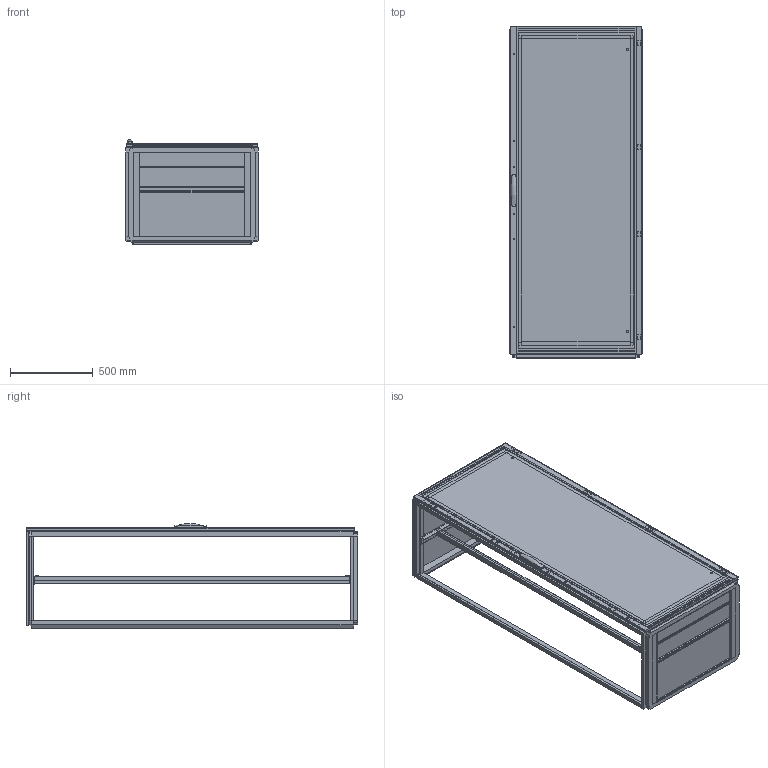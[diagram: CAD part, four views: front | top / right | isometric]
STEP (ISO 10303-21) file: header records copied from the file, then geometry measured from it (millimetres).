
FILE_DESCRIPTION(/* description */ ('STEP AP203'),/* implementation_level */ '2;1');
FILE_NAME(/* name */ 'MCI20086R5(0)',/* time_stamp */ '2024-02-26T10:35:48+01:00',/* author */ ('License CC BY-ND 4.0'),/* organization */ ('CADENAS'),/* preprocessor_version */ 'ST-DEVELOPER v19.3',/* originating_system */ 'PARTsolutions',/* authorisation */ ' ');
FILE_SCHEMA (('CONFIG_CONTROL_DESIGN'));
Length unit declared in the file: millimetre
Products named in the file (16): MCI20086R5(0); MCI20086R5_Frame; DNMK01(0)_Rod catches; DNMK01(0)_Hinge; DN2008R5(0)_Plain door; LSSDXXXX(0)_Lock; LSSD2000(0)_Espagnolette Top; LSSD2000(0)_Espagnolette Bottom; CCR086R5(0)_Roof plate; CBP080(0)_Bottom Plate 1; CBP080(0)_Bottom Plate 2; CBPW800D300(0)_Bottom Plate 3; MCI20086R5(1)_Fixation Profile; MCI20086R5(0)_Mounting Profile 1; MCI20086R5(0)_Mounting Profile 2; MCI20086R5(0)_Fixation Profile
Assembly tree (21 placements, depth 2):
  MCI20086R5(0)
    MCI20086R5_Frame
    DNMK01(0)_Rod catches  x4
    DNMK01(0)_Hinge  x4
    DN2008R5(0)_Plain door
    LSSDXXXX(0)_Lock
    LSSD2000(0)_Espagnolette Top
    LSSD2000(0)_Espagnolette Bottom
    CCR086R5(0)_Roof plate
    CBP080(0)_Bottom Plate 1
    CBP080(0)_Bottom Plate 2
    CBPW800D300(0)_Bottom Plate 3
    MCI20086R5(1)_Fixation Profile
    MCI20086R5(0)_Mounting Profile 1
    MCI20086R5(0)_Mounting Profile 2
    MCI20086R5(0)_Fixation Profile
Bounding box: 799 x 2003.5 x 630.1 mm (x, y, z)
Volume: 25617908.6 mm3; surface area: 8964979.8 mm2
Topology: 21 solids, 21 shells, 1062 faces, 2852 edges, 1885 vertices
Faces by surface type: plane 914, cylinder 107, cone 40, torus 1
Full cylindrical faces by diameter (mm): 5 x20, 5.2 x2, 6 x6, 7 x8, 7.4 x4, 8 x7, 9 x1, 10 x12, 14 x3
Entity records: 27425 total; most frequent: CARTESIAN_POINT 4832, ORIENTED_EDGE 4638, DIRECTION 4318, EDGE_CURVE 2319, LINE 2100, VECTOR 2100, VERTEX_POINT 1561, AXIS2_PLACEMENT_3D 1109
